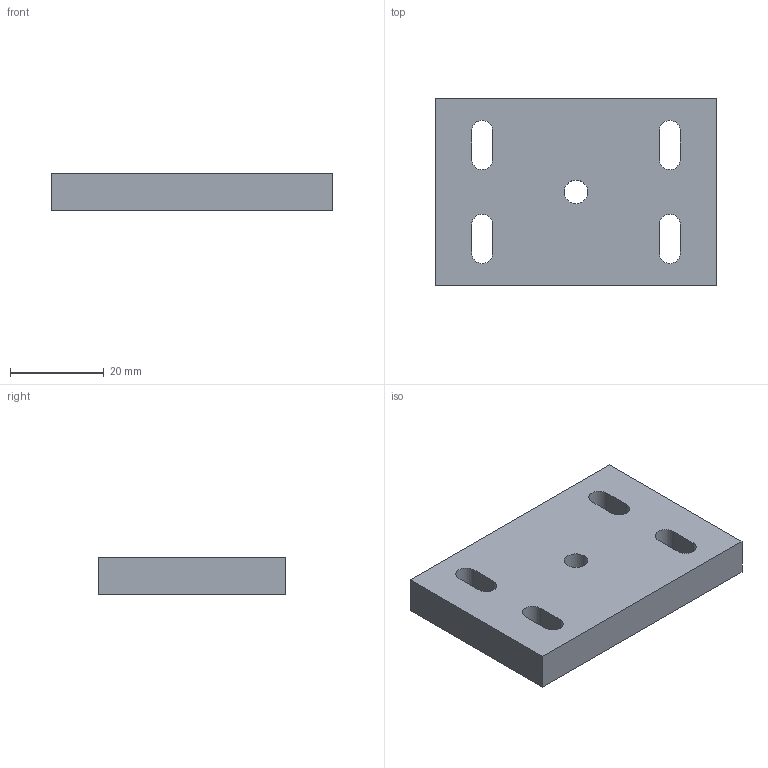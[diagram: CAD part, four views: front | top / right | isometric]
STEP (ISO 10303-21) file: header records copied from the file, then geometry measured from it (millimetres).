
FILE_DESCRIPTION(('Open CASCADE Model'),'2;1');
FILE_NAME('Open CASCADE Shape Model','2026-11-05T14:04:52',('Author'),( 'Open CASCADE'),'Open CASCADE STEP processor 7.8','Open CASCADE 7.8' ,'Unknown');
FILE_SCHEMA(('AUTOMOTIVE_DESIGN { 1 0 10303 214 1 1 1 1 }'));
Length unit declared in the file: millimetre
Products named in the file (1): Open CASCADE STEP translator 7.8 5
Bounding box: 60 x 40 x 8 mm (x, y, z)
Volume: 17670 mm3; surface area: 6979.5 mm2
Topology: 1 solids, 1 shells, 23 faces, 63 edges, 42 vertices
Faces by surface type: plane 14, cylinder 9
Full cylindrical faces by diameter (mm): 5 x1
Entity records: 1632 total; most frequent: CARTESIAN_POINT 351, DIRECTION 239, LINE 153, VECTOR 153, ORIENTED_EDGE 126, PCURVE 126, DEFINITIONAL_REPRESENTATION 126, EDGE_CURVE 63
